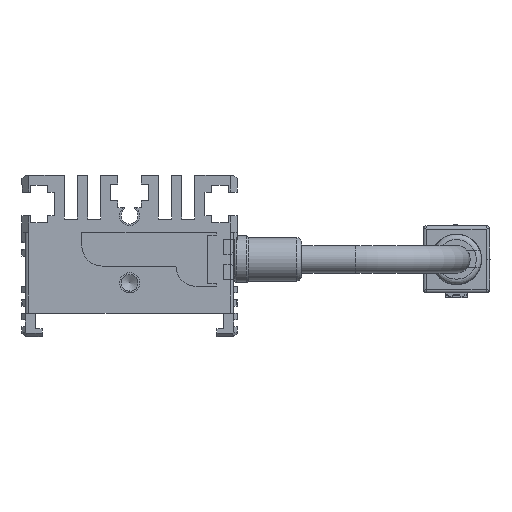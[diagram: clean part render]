
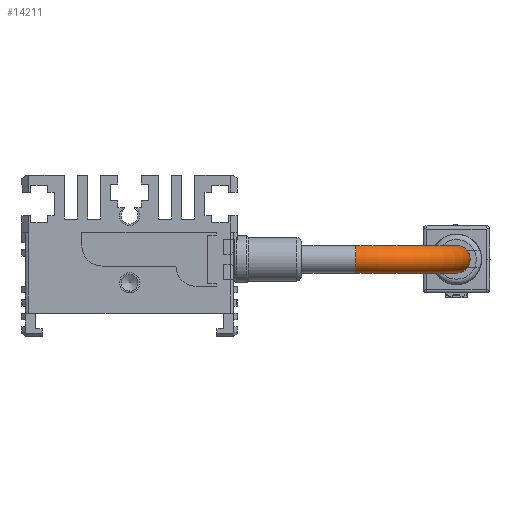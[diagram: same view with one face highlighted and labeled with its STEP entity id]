
A CAD part, front view. The second image highlights one B-rep face of the part: STEP entity #14211.
In plain terms, the highlighted toroidal (fillet/blend) face has major radius 15 mm and minor radius 2.05 mm.
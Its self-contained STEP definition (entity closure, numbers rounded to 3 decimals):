
#285 = CARTESIAN_POINT ( 'NONE',  ( 33.6, -168.7, 0. ) ) ;
#1959 = VERTEX_POINT ( 'NONE', #5734 ) ;
#2489 = EDGE_LOOP ( 'NONE', ( #8932 ) ) ;
#2595 = DIRECTION ( 'NONE',  ( 0., -1., 0. ) ) ;
#3932 = AXIS2_PLACEMENT_3D ( 'NONE', #285, #9858, #11271 ) ;
#4682 = CIRCLE ( 'NONE', #10989, 2.05 ) ;
#5487 = FACE_OUTER_BOUND ( 'NONE', #15935, .T. ) ;
#5734 = CARTESIAN_POINT ( 'NONE',  ( 46.55, -168.7, 0. ) ) ;
#5960 = EDGE_CURVE ( 'NONE', #17368, #17368, #4682, .T. ) ;
#7420 = CARTESIAN_POINT ( 'NONE',  ( 33.6, -183.7, 0. ) ) ;
#7608 = DIRECTION ( 'NONE',  ( 0., 1., 0. ) ) ;
#8158 = CARTESIAN_POINT ( 'NONE',  ( 48.6, -168.7, 0. ) ) ;
#8787 = EDGE_CURVE ( 'NONE', #1959, #1959, #9230, .T. ) ;
#8932 = ORIENTED_EDGE ( 'NONE', *, *, #5960, .F. ) ;
#9230 = CIRCLE ( 'NONE', #13405, 2.05 ) ;
#9858 = DIRECTION ( 'NONE',  ( 0., 0., -1. ) ) ;
#10989 = AXIS2_PLACEMENT_3D ( 'NONE', #7420, #14393, #7608 ) ;
#11271 = DIRECTION ( 'NONE',  ( 0., -1., 0. ) ) ;
#12085 = TOROIDAL_SURFACE ( 'NONE', #3932, 15., 2.05 ) ;
#13405 = AXIS2_PLACEMENT_3D ( 'NONE', #8158, #2595, #15030 ) ;
#13673 = ORIENTED_EDGE ( 'NONE', *, *, #8787, .T. ) ;
#13967 = CARTESIAN_POINT ( 'NONE',  ( 33.6, -181.65, 0. ) ) ;
#14017 = FACE_OUTER_BOUND ( 'NONE', #2489, .T. ) ;
#14211 = ADVANCED_FACE ( 'NONE', ( #14017, #5487 ), #12085, .T. ) ;
#14393 = DIRECTION ( 'NONE',  ( -1., 0., 0. ) ) ;
#15030 = DIRECTION ( 'NONE',  ( -1., 0., 0. ) ) ;
#15935 = EDGE_LOOP ( 'NONE', ( #13673 ) ) ;
#17368 = VERTEX_POINT ( 'NONE', #13967 ) ;
